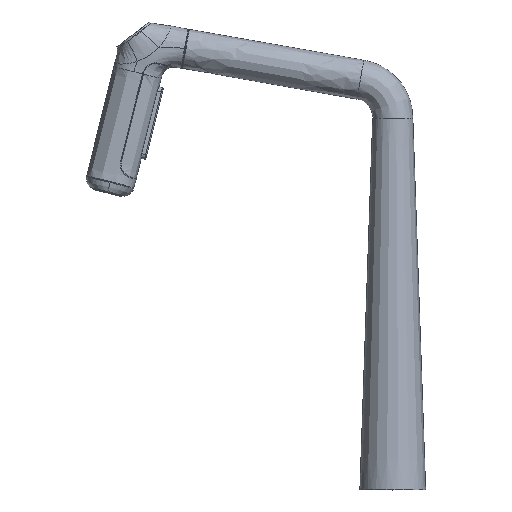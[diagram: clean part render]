
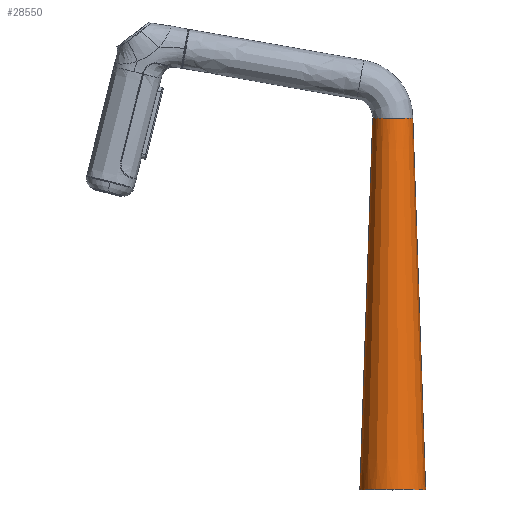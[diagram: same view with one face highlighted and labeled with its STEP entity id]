
A CAD part, top view. The second image highlights one B-rep face of the part: STEP entity #28550.
In plain terms, the highlighted conical face has half-angle 1.976 degrees and reference radius 20.446 mm.
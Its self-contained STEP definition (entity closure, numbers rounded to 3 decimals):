
#9072=DIRECTION('',(-0.034,0.999,0.));
#9073=VECTOR('',#9072,286.769);
#9074=CARTESIAN_POINT('',(25.389,-145.69,
0.));
#9075=LINE('',#9074,#9073);
#9076=CARTESIAN_POINT('',(-15.502,140.947,
0.));
#9111=CARTESIAN_POINT('',(15.503,140.909,0.));
#9113=DIRECTION('',(0.034,0.999,0.));
#9114=VECTOR('',#9113,286.807);
#9115=CARTESIAN_POINT('',(-25.389,-145.69,
0.));
#9116=LINE('',#9115,#9114);
#9127=CARTESIAN_POINT('',(0.,-145.69,0.));
#9128=DIRECTION('',(0.,1.,0.));
#9129=DIRECTION('',(-1.,0.,0.));
#9130=AXIS2_PLACEMENT_3D('',#9127,#9128,#9129);
#9132=CARTESIAN_POINT('',(15.503,140.909,0.));
#9133=CARTESIAN_POINT('',(15.503,140.909,0.491));
#9134=CARTESIAN_POINT('',(15.457,140.909,1.473));
#9135=CARTESIAN_POINT('',(15.247,140.909,2.934));
#9136=CARTESIAN_POINT('',(14.899,140.91,4.37));
#9137=CARTESIAN_POINT('',(14.416,140.91,5.766));
#9138=CARTESIAN_POINT('',(13.803,140.911,7.11));
#9139=CARTESIAN_POINT('',(13.064,140.911,8.391));
#9140=CARTESIAN_POINT('',(12.207,140.912,9.595));
#9141=CARTESIAN_POINT('',(11.239,140.913,10.712));
#9142=CARTESIAN_POINT('',(10.17,140.914,11.732));
#9143=CARTESIAN_POINT('',(9.009,140.915,12.646));
#9144=CARTESIAN_POINT('',(7.765,140.916,13.445));
#9145=CARTESIAN_POINT('',(6.452,140.916,14.122));
#9146=CARTESIAN_POINT('',(5.08,140.917,14.672));
#9147=CARTESIAN_POINT('',(3.662,140.919,15.088));
#9148=CARTESIAN_POINT('',(2.211,140.92,15.368));
#9149=CARTESIAN_POINT('',(0.74,140.921,15.509));
#9150=CARTESIAN_POINT('',(-0.738,140.922,
15.509));
#9151=CARTESIAN_POINT('',(-2.209,140.924,15.368));
#9152=CARTESIAN_POINT('',(-3.66,140.925,15.088));
#9153=CARTESIAN_POINT('',(-5.078,140.926,14.672));
#9154=CARTESIAN_POINT('',(-6.45,140.928,14.123));
#9155=CARTESIAN_POINT('',(-7.764,140.93,13.445));
#9156=CARTESIAN_POINT('',(-9.007,140.932,12.646));
#9157=CARTESIAN_POINT('',(-10.168,140.934,11.733));
#9158=CARTESIAN_POINT('',(-11.237,140.936,10.713));
#9159=CARTESIAN_POINT('',(-12.205,140.937,9.596));
#9160=CARTESIAN_POINT('',(-13.062,140.94,8.392));
#9161=CARTESIAN_POINT('',(-13.801,140.942,7.111));
#9162=CARTESIAN_POINT('',(-14.415,140.944,5.765));
#9163=CARTESIAN_POINT('',(-14.898,140.946,4.369));
#9164=CARTESIAN_POINT('',(-15.246,140.946,2.933));
#9165=CARTESIAN_POINT('',(-15.455,140.946,1.471));
#9166=CARTESIAN_POINT('',(-15.502,140.947,
0.49));
#9167=CARTESIAN_POINT('',(-15.502,140.947,
0.));
#9183=VERTEX_POINT('',#9076);
#9184=VERTEX_POINT('',#9111);
#9193=CARTESIAN_POINT('',(25.389,-145.69,0.));
#9194=CARTESIAN_POINT('',(-25.389,-145.69,0.));
#9195=VERTEX_POINT('',#9193);
#9196=VERTEX_POINT('',#9194);
#28539=CARTESIAN_POINT('',(0.,-2.371,0.));
#28540=DIRECTION('',(0.,-1.,0.));
#28541=DIRECTION('',(-1.,0.,0.));
#28542=AXIS2_PLACEMENT_3D('',#28539,#28540,#28541);
#28543=CONICAL_SURFACE('',#28542,20.446,1.976);
#28544=ORIENTED_EDGE('',*,*,#28530,.F.);
#28545=ORIENTED_EDGE('',*,*,#28505,.T.);
#28546=ORIENTED_EDGE('',*,*,#10853,.F.);
#28547=ORIENTED_EDGE('',*,*,#28502,.F.);
#28548=EDGE_LOOP('',(#28544,#28545,#28546,#28547));
#28549=FACE_OUTER_BOUND('',#28548,.F.);
#28550=ADVANCED_FACE('',(#28549),#28543,.T.);
#9131=CIRCLE('',#9130,25.389);
#9168=B_SPLINE_CURVE_WITH_KNOTS('',3,(#9132,#9133,#9134,#9135,#9136,#9137,#9138,
#9139,#9140,#9141,#9142,#9143,#9144,#9145,#9146,#9147,#9148,#9149,#9150,#9151,
#9152,#9153,#9154,#9155,#9156,#9157,#9158,#9159,#9160,#9161,#9162,#9163,#9164,
#9165,#9166,#9167),.UNSPECIFIED.,.F.,.F.,(4,1,1,1,1,1,1,1,1,1,1,1,1,1,1,1,1,1,1,
1,1,1,1,1,1,1,1,1,1,1,1,1,1,4),(0.,0.03,0.061,
0.091,0.121,0.152,0.182,
0.212,0.242,0.273,0.303,
0.333,0.364,0.394,0.424,
0.455,0.485,0.515,0.545,
0.576,0.606,0.636,0.667,
0.697,0.727,0.758,0.788,
0.818,0.848,0.879,0.909,
0.939,0.97,1.),.UNSPECIFIED.);
#10853=EDGE_CURVE('',#9184,#9183,#9168,.T.);
#28502=EDGE_CURVE('',#9195,#9184,#9075,.T.);
#28505=EDGE_CURVE('',#9196,#9183,#9116,.T.);
#28530=EDGE_CURVE('',#9196,#9195,#9131,.T.);
